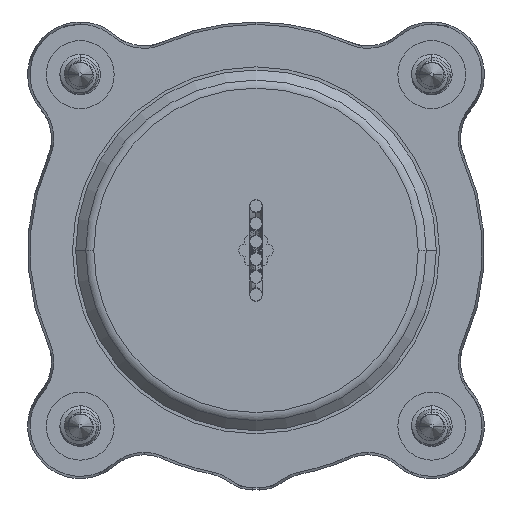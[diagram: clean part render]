
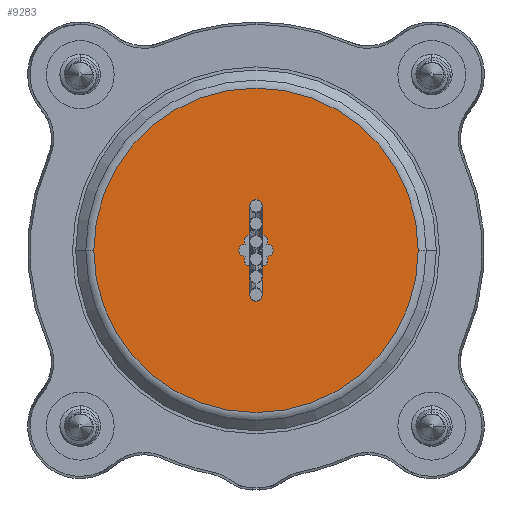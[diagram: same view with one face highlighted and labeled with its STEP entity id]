
A CAD part, front view. The second image highlights one B-rep face of the part: STEP entity #9283.
In plain terms, the highlighted planar face has unit normal (0, -1, 0).
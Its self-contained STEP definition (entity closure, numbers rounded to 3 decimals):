
#9140 = EDGE_CURVE('',#9141,#9143,#9145,.T.);
#9141 = VERTEX_POINT('',#9142);
#9142 = CARTESIAN_POINT('',(11.367,-12.667,0.));
#9143 = VERTEX_POINT('',#9144);
#9144 = CARTESIAN_POINT('',(-11.367,-12.667,0.));
#9145 = SURFACE_CURVE('',#9146,(#9151,#9163),.PCURVE_S1.);
#9146 = CIRCLE('',#9147,11.367);
#9147 = AXIS2_PLACEMENT_3D('',#9148,#9149,#9150);
#9148 = CARTESIAN_POINT('',(0.,-12.667,
    0.));
#9149 = DIRECTION('',(0.,-1.,0.));
#9150 = DIRECTION('',(1.,0.,0.));
#9151 = PCURVE('',#9152,#9157);
#9152 = CYLINDRICAL_SURFACE('',#9153,11.367);
#9153 = AXIS2_PLACEMENT_3D('',#9154,#9155,#9156);
#9154 = CARTESIAN_POINT('',(0.,-12.667,
    0.));
#9155 = DIRECTION('',(0.,1.,0.));
#9156 = DIRECTION('',(-1.,0.,0.));
#9157 = DEFINITIONAL_REPRESENTATION('',(#9158),#9162);
#9158 = LINE('',#9159,#9160);
#9159 = CARTESIAN_POINT('',(3.142,0.));
#9160 = VECTOR('',#9161,1.);
#9161 = DIRECTION('',(-1.,0.));
#9162 = ( GEOMETRIC_REPRESENTATION_CONTEXT(2) 
PARAMETRIC_REPRESENTATION_CONTEXT() REPRESENTATION_CONTEXT('2D SPACE',''
  ) );
#9163 = PCURVE('',#9164,#9169);
#9164 = PLANE('',#9165);
#9165 = AXIS2_PLACEMENT_3D('',#9166,#9167,#9168);
#9166 = CARTESIAN_POINT('',(0.,-12.667,
    0.));
#9167 = DIRECTION('',(0.,-1.,0.));
#9168 = DIRECTION('',(1.,0.,0.));
#9169 = DEFINITIONAL_REPRESENTATION('',(#9170),#9174);
#9170 = CIRCLE('',#9171,11.367);
#9171 = AXIS2_PLACEMENT_2D('',#9172,#9173);
#9172 = CARTESIAN_POINT('',(0.,0.));
#9173 = DIRECTION('',(1.,0.));
#9174 = ( GEOMETRIC_REPRESENTATION_CONTEXT(2) 
PARAMETRIC_REPRESENTATION_CONTEXT() REPRESENTATION_CONTEXT('2D SPACE',''
  ) );
#9192 = CYLINDRICAL_SURFACE('',#9193,11.367);
#9193 = AXIS2_PLACEMENT_3D('',#9194,#9195,#9196);
#9194 = CARTESIAN_POINT('',(0.,-12.667,
    0.));
#9195 = DIRECTION('',(0.,1.,0.));
#9196 = DIRECTION('',(-1.,0.,0.));
#9246 = EDGE_CURVE('',#9143,#9141,#9247,.T.);
#9247 = SURFACE_CURVE('',#9248,(#9253,#9260),.PCURVE_S1.);
#9248 = CIRCLE('',#9249,11.367);
#9249 = AXIS2_PLACEMENT_3D('',#9250,#9251,#9252);
#9250 = CARTESIAN_POINT('',(0.,-12.667,
    0.));
#9251 = DIRECTION('',(0.,-1.,0.));
#9252 = DIRECTION('',(1.,0.,0.));
#9253 = PCURVE('',#9192,#9254);
#9254 = DEFINITIONAL_REPRESENTATION('',(#9255),#9259);
#9255 = LINE('',#9256,#9257);
#9256 = CARTESIAN_POINT('',(9.425,0.));
#9257 = VECTOR('',#9258,1.);
#9258 = DIRECTION('',(-1.,0.));
#9259 = ( GEOMETRIC_REPRESENTATION_CONTEXT(2) 
PARAMETRIC_REPRESENTATION_CONTEXT() REPRESENTATION_CONTEXT('2D SPACE',''
  ) );
#9260 = PCURVE('',#9164,#9261);
#9261 = DEFINITIONAL_REPRESENTATION('',(#9262),#9266);
#9262 = CIRCLE('',#9263,11.367);
#9263 = AXIS2_PLACEMENT_2D('',#9264,#9265);
#9264 = CARTESIAN_POINT('',(0.,0.));
#9265 = DIRECTION('',(1.,0.));
#9266 = ( GEOMETRIC_REPRESENTATION_CONTEXT(2) 
PARAMETRIC_REPRESENTATION_CONTEXT() REPRESENTATION_CONTEXT('2D SPACE',''
  ) );
#9283 = ADVANCED_FACE('',(#9284),#9164,.T.);
#9284 = FACE_BOUND('',#9285,.T.);
#9285 = EDGE_LOOP('',(#9286,#9287));
#9286 = ORIENTED_EDGE('',*,*,#9246,.T.);
#9287 = ORIENTED_EDGE('',*,*,#9140,.T.);
